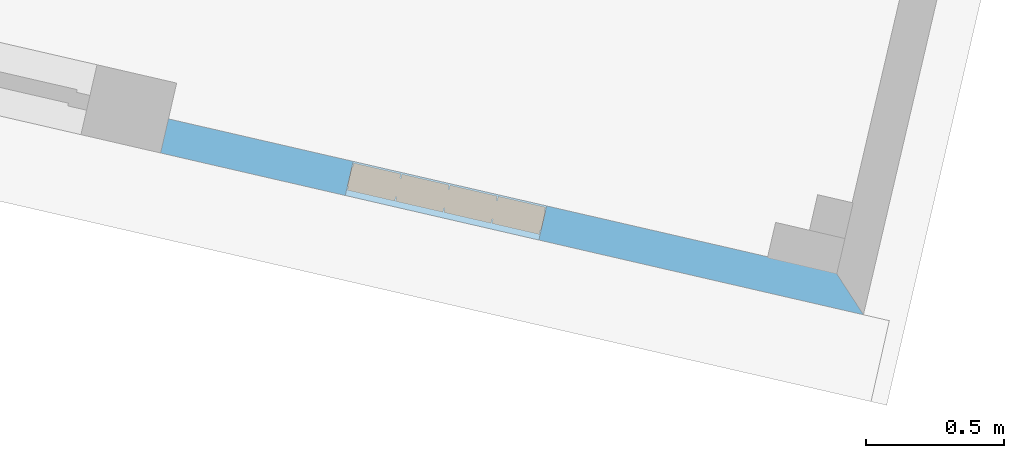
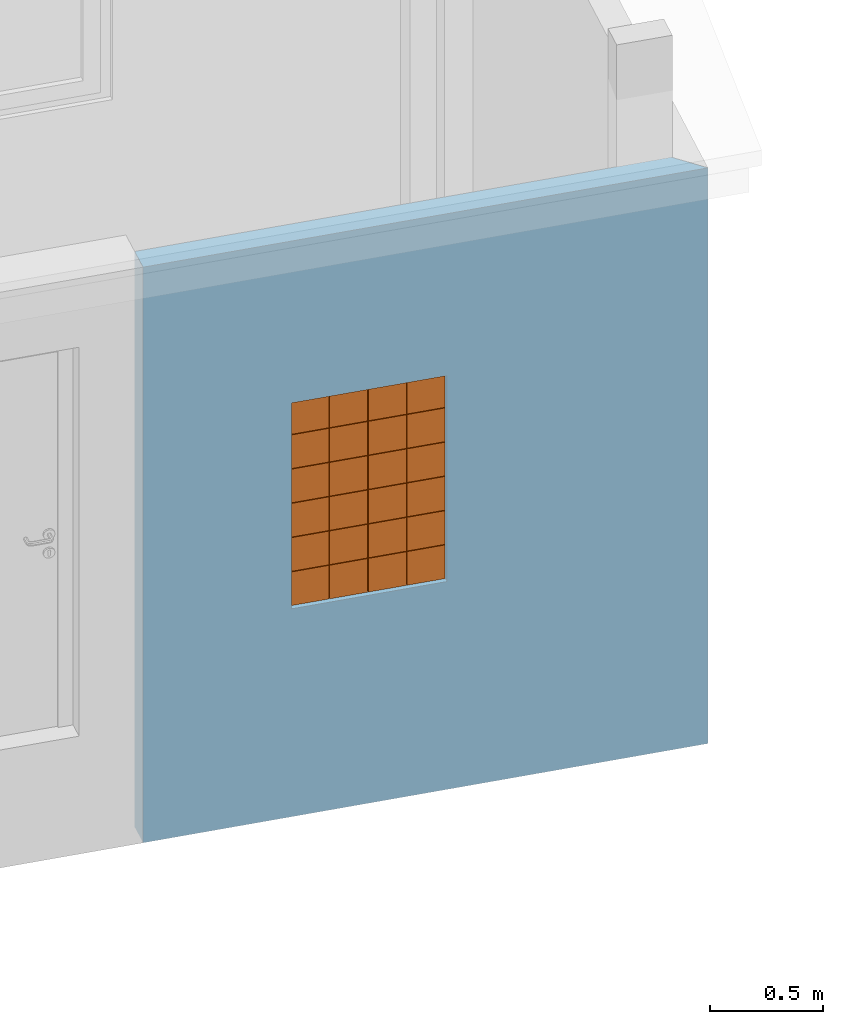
# One storey, part 112 of 196: 1 proxy, 1 opening, plus 1 element that does not belong to this part.
"""IFC2X3 building model written with IfcOpenShell, lengths in metres."""

from ifc_helpers import new_model, entity, si_unit, converted_unit, derived_unit, money_unit, direction, frame, origin_with_axes, origin_2d_with_axis, place, context, subcontext, project, spatial, polyline, rectangle, outline, extrude, faceted_brep, material, layer, layer_set, layer_usage, type_object, element, fill, save


model = new_model("IFC2X3")

# Units and contexts
model_context = context("Model", 3, precision=1e-05, world=origin_with_axes(), true_north=direction((0.0, 1.0)))
body_context = subcontext(model_context, "Body", "Model", "MODEL_VIEW")
ifc_project = project(units=[si_unit("LENGTHUNIT", "METRE"), si_unit("AREAUNIT", "SQUARE_METRE"), si_unit("VOLUMEUNIT", "CUBIC_METRE"), converted_unit("PLANEANGLEUNIT", "DEGREE", entity("IfcPlaneAngleMeasure", 0.0174532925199), si_unit("PLANEANGLEUNIT", "RADIAN"), dimensions=[0, 0, 0, 0, 0, 0, 0]), money_unit("EUR"), converted_unit("TIMEUNIT", "Year", entity("IfcTimeMeasure", 31556926.0), si_unit("TIMEUNIT", "SECOND"), dimensions=[0, 0, 1, 0, 0, 0, 0]), si_unit("MASSUNIT", "GRAM", prefix="KILO"), si_unit("THERMODYNAMICTEMPERATUREUNIT", "DEGREE_CELSIUS"), si_unit("LUMINOUSINTENSITYUNIT", "LUMEN"), si_unit("ENERGYUNIT", "JOULE", prefix="MEGA"), derived_unit("THERMALCONDUCTANCEUNIT", [(si_unit("POWERUNIT", "WATT"), 1), (si_unit("LENGTHUNIT", "METRE"), -1), (si_unit("THERMODYNAMICTEMPERATUREUNIT", "KELVIN"), -1)]), derived_unit("SPECIFICHEATCAPACITYUNIT", [(si_unit("ENERGYUNIT", "JOULE"), 1), (si_unit("MASSUNIT", "GRAM", prefix="KILO"), -1), (si_unit("THERMODYNAMICTEMPERATUREUNIT", "KELVIN"), -1)]), derived_unit("MASSDENSITYUNIT", [(si_unit("MASSUNIT", "GRAM", prefix="KILO"), 1), (si_unit("VOLUMEUNIT", "CUBIC_METRE"), -1)])], contexts=[model_context])

# Site, building, storey
site_placement = place(None, origin_with_axes())
site = spatial("IfcSite", under=ifc_project, at=site_placement, Name="Gelände", CompositionType="ELEMENT")
building_placement = place(site_placement, origin_with_axes())
building = spatial("IfcBuilding", under=site, at=building_placement, Name="Gebäude", CompositionType="ELEMENT")
storey_placement = place(building_placement, frame((0.0, 0.0, -3.0), z_axis=(0.0, 0.0, 1.0), x_axis=(1.0, 0.0, 0.0)))
storey = spatial("IfcBuildingStorey", under=building, at=storey_placement, Name="KELLERGESCHOSS", CompositionType="ELEMENT", Elevation=-3.0)

# Wall, opening, proxy
ifc_material = material(Name="05_ALLGEMEIN - TRAGENDE BAUTEILE")
ifc_layer = layer(ifc_material, 0.12696716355, ventilated="UNKNOWN")
ifc_layer_set = layer_set([ifc_layer], Name="05_ALLGEMEIN - TRAGENDE BAUTEILE 0.126967")
ifc_layer_usage = layer_usage(ifc_layer_set, "AXIS2", "NEGATIVE", 0.12696716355)
wall_type = type_object("IfcWallType", Name="05_ALLGEMEIN - TRAGENDE BAUTEILE 127", PredefinedType="ELEMENTEDWALL")
wall_placement = place(storey_placement, frame((-67.5879593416, 69.0336085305, 0.0), z_axis=(0.0, 0.0, 1.0), x_axis=(0.97451919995, -0.224304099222, 0.0)))
wall = element("IfcWallStandardCase", 1, at=wall_placement, inside=storey, type_object=wall_type, material=ifc_layer_usage, Name="Wand-028", ObjectType="ELEMENTEDWALL", context=body_context, shape_type="SweptSolid", body=[
    extrude(outline(polyline([(0.0, 0.0), (2.61512761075, 0.0), (2.48339586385, 0.12696716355), (0.0, 0.12696716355), (0.0, 0.0)])), origin_with_axes(), (0.0, 0.0, 1.0), 3.1099946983),
])
opening_placement = place(wall_placement, frame((1.04736940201, 0.0, 1.12314), z_axis=(0.0, 0.0, 1.0), x_axis=(1.0, 0.0, 0.0)))
opening = element("IfcOpeningElement", 2, at=opening_placement, cuts=wall, Name="Fenster-016", context=body_context, shape_type="SweptSolid", body=[
    extrude(rectangle(XDim=0.720305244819, YDim=1.113231, at=origin_2d_with_axis()), frame((0.0, 0.0199732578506, 0.5566155), z_axis=(0.0, 1.0, 0.0), x_axis=(-1.0, 0.0, 0.0)), (0.0, 0.0, 1.0), 0.233961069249),
    extrude(rectangle(XDim=0.720305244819, YDim=1.113231, at=origin_2d_with_axis()), frame((0.0, 0.0199732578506, 0.5566155), z_axis=(0.0, -1.0, 0.0), x_axis=(-1.0, 0.0, 0.0)), (0.0, 0.0, 1.0), 0.1469404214),
])
building_element_proxy_type = type_object("IfcBuildingElementProxyType", Name="Glasziegelfenster 25", PredefinedType="NOTDEFINED")
proxy_placement = place(opening_placement, frame((-0.36015262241, 0.0, 0.0), z_axis=(0.0, 0.0, 1.0), x_axis=(1.0, 0.0, 0.0)))
proxy = element("IfcBuildingElementProxy", 3, at=proxy_placement, inside=storey, type_object=building_element_proxy_type, Name="Fenster-016", context=body_context, shape_type="Brep", body=[
    faceted_brep([(0.720305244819, 0.105973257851, 0.0), (0.720305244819, 0.0359732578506, 0.0), (0.0, 0.0359732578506, 0.0), (0.0, 0.105973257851, 0.0), (0.720305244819, 0.105973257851, 1.113231), (0.720305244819, 0.0359732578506, 1.113231), (0.0, 0.0359732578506, 1.113231), (0.717305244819, 0.0359732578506, 0.003), (0.540978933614, 0.0359732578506, 0.003), (0.540978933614, 0.0359732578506, 0.1850385), (0.717305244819, 0.0359732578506, 0.1850385), (0.717305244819, 0.0359732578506, 0.1880385), (0.540978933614, 0.0359732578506, 0.1880385), (0.540978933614, 0.0359732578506, 0.370077), (0.717305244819, 0.0359732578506, 0.370077), (0.717305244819, 0.0359732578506, 0.373077), (0.540978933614, 0.0359732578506, 0.373077), (0.540978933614, 0.0359732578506, 0.5551155), (0.717305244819, 0.0359732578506, 0.5551155), (0.717305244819, 0.0359732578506, 0.5581155), (0.540978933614, 0.0359732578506, 0.5581155), (0.540978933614, 0.0359732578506, 0.740154), (0.717305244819, 0.0359732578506, 0.740154), (0.717305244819, 0.0359732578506, 0.743154), (0.540978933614, 0.0359732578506, 0.743154), (0.540978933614, 0.0359732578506, 0.9251925), (0.717305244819, 0.0359732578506, 0.9251925), (0.717305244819, 0.0359732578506, 0.9281925), (0.540978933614, 0.0359732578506, 0.9281925), (0.540978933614, 0.0359732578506, 1.110231), (0.717305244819, 0.0359732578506, 1.110231), (0.537978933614, 0.0359732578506, 0.003), (0.36165262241, 0.0359732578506, 0.003), (0.36165262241, 0.0359732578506, 0.1850385), (0.537978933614, 0.0359732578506, 0.1850385), (0.537978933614, 0.0359732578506, 0.1880385), (0.36165262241, 0.0359732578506, 0.1880385), (0.36165262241, 0.0359732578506, 0.370077), (0.537978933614, 0.0359732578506, 0.370077), (0.537978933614, 0.0359732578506, 0.373077), (0.36165262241, 0.0359732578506, 0.373077), (0.36165262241, 0.0359732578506, 0.5551155), (0.537978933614, 0.0359732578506, 0.5551155), (0.537978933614, 0.0359732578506, 0.5581155), (0.36165262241, 0.0359732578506, 0.5581155), (0.36165262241, 0.0359732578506, 0.740154), (0.537978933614, 0.0359732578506, 0.740154), (0.537978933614, 0.0359732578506, 0.743154), (0.36165262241, 0.0359732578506, 0.743154), (0.36165262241, 0.0359732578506, 0.9251925), (0.537978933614, 0.0359732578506, 0.9251925), (0.537978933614, 0.0359732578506, 0.9281925), (0.36165262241, 0.0359732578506, 0.9281925), (0.36165262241, 0.0359732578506, 1.110231), (0.537978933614, 0.0359732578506, 1.110231), (0.35865262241, 0.0359732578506, 0.003), (0.182326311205, 0.0359732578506, 0.003), (0.182326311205, 0.0359732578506, 0.1850385), (0.35865262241, 0.0359732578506, 0.1850385), (0.35865262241, 0.0359732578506, 0.1880385), (0.182326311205, 0.0359732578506, 0.1880385), (0.182326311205, 0.0359732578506, 0.370077), (0.35865262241, 0.0359732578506, 0.370077), (0.35865262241, 0.0359732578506, 0.373077), (0.182326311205, 0.0359732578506, 0.373077), (0.182326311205, 0.0359732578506, 0.5551155), (0.35865262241, 0.0359732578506, 0.5551155), (0.35865262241, 0.0359732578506, 0.5581155), (0.182326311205, 0.0359732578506, 0.5581155), (0.182326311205, 0.0359732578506, 0.740154), (0.35865262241, 0.0359732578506, 0.740154), (0.35865262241, 0.0359732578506, 0.743154), (0.182326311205, 0.0359732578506, 0.743154), (0.182326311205, 0.0359732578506, 0.9251925), (0.35865262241, 0.0359732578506, 0.9251925), (0.35865262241, 0.0359732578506, 0.9281925), (0.182326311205, 0.0359732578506, 0.9281925), (0.182326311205, 0.0359732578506, 1.110231), (0.35865262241, 0.0359732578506, 1.110231), (0.179326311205, 0.0359732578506, 0.003), (0.00300000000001, 0.0359732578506, 0.003), (0.00300000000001, 0.0359732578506, 0.1850385), (0.179326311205, 0.0359732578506, 0.1850385), (0.179326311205, 0.0359732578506, 0.1880385), (0.00300000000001, 0.0359732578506, 0.1880385), (0.00300000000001, 0.0359732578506, 0.370077), (0.179326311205, 0.0359732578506, 0.370077), (0.179326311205, 0.0359732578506, 0.373077), (0.00300000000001, 0.0359732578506, 0.373077), (0.00300000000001, 0.0359732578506, 0.5551155), (0.179326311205, 0.0359732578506, 0.5551155), (0.179326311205, 0.0359732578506, 0.5581155), (0.00300000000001, 0.0359732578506, 0.5581155), (0.00300000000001, 0.0359732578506, 0.740154), (0.179326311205, 0.0359732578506, 0.740154), (0.179326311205, 0.0359732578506, 0.743154), (0.00300000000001, 0.0359732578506, 0.743154), (0.00300000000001, 0.0359732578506, 0.9251925), (0.179326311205, 0.0359732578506, 0.9251925), (0.179326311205, 0.0359732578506, 0.9281925), (0.00300000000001, 0.0359732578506, 0.9281925), (0.00300000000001, 0.0359732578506, 1.110231), (0.179326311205, 0.0359732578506, 1.110231), (0.0, 0.105973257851, 1.113231), (0.717305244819, 0.105973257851, 0.003), (0.717305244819, 0.105973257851, 0.1850385), (0.540978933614, 0.105973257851, 0.1850385), (0.540978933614, 0.105973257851, 0.003), (0.717305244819, 0.105973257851, 0.1880385), (0.717305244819, 0.105973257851, 0.370077), (0.540978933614, 0.105973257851, 0.370077), (0.540978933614, 0.105973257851, 0.1880385), (0.717305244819, 0.105973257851, 0.373077), (0.717305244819, 0.105973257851, 0.5551155), (0.540978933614, 0.105973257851, 0.5551155), (0.540978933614, 0.105973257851, 0.373077), (0.717305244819, 0.105973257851, 0.5581155), (0.717305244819, 0.105973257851, 0.740154), (0.540978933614, 0.105973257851, 0.740154), (0.540978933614, 0.105973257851, 0.5581155), (0.717305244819, 0.105973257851, 0.743154), (0.717305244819, 0.105973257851, 0.9251925), (0.540978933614, 0.105973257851, 0.9251925), (0.540978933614, 0.105973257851, 0.743154), (0.717305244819, 0.105973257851, 0.9281925), (0.717305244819, 0.105973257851, 1.110231), (0.540978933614, 0.105973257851, 1.110231), (0.540978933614, 0.105973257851, 0.9281925), (0.537978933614, 0.105973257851, 0.003), (0.537978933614, 0.105973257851, 0.1850385), (0.36165262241, 0.105973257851, 0.1850385), (0.36165262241, 0.105973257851, 0.003), (0.537978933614, 0.105973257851, 0.1880385), (0.537978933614, 0.105973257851, 0.370077), (0.36165262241, 0.105973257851, 0.370077), (0.36165262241, 0.105973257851, 0.1880385), (0.537978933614, 0.105973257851, 0.373077), (0.537978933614, 0.105973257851, 0.5551155), (0.36165262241, 0.105973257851, 0.5551155), (0.36165262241, 0.105973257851, 0.373077), (0.537978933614, 0.105973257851, 0.5581155), (0.537978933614, 0.105973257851, 0.740154), (0.36165262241, 0.105973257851, 0.740154), (0.36165262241, 0.105973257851, 0.5581155), (0.537978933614, 0.105973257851, 0.743154), (0.537978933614, 0.105973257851, 0.9251925), (0.36165262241, 0.105973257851, 0.9251925), (0.36165262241, 0.105973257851, 0.743154), (0.537978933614, 0.105973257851, 0.9281925), (0.537978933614, 0.105973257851, 1.110231), (0.36165262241, 0.105973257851, 1.110231), (0.36165262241, 0.105973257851, 0.9281925), (0.35865262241, 0.105973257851, 0.003), (0.35865262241, 0.105973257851, 0.1850385), (0.182326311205, 0.105973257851, 0.1850385), (0.182326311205, 0.105973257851, 0.003), (0.35865262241, 0.105973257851, 0.1880385), (0.35865262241, 0.105973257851, 0.370077), (0.182326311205, 0.105973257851, 0.370077), (0.182326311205, 0.105973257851, 0.1880385), (0.35865262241, 0.105973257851, 0.373077), (0.35865262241, 0.105973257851, 0.5551155), (0.182326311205, 0.105973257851, 0.5551155), (0.182326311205, 0.105973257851, 0.373077), (0.35865262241, 0.105973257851, 0.5581155), (0.35865262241, 0.105973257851, 0.740154), (0.182326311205, 0.105973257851, 0.740154), (0.182326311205, 0.105973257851, 0.5581155), (0.35865262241, 0.105973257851, 0.743154), (0.35865262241, 0.105973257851, 0.9251925), (0.182326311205, 0.105973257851, 0.9251925), (0.182326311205, 0.105973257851, 0.743154), (0.35865262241, 0.105973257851, 0.9281925), (0.35865262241, 0.105973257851, 1.110231), (0.182326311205, 0.105973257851, 1.110231), (0.182326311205, 0.105973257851, 0.9281925), (0.179326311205, 0.105973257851, 0.003), (0.179326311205, 0.105973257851, 0.1850385), (0.003, 0.105973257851, 0.1850385), (0.003, 0.105973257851, 0.003), (0.179326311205, 0.105973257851, 0.1880385), (0.179326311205, 0.105973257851, 0.370077), (0.003, 0.105973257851, 0.370077), (0.003, 0.105973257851, 0.1880385), (0.179326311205, 0.105973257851, 0.373077), (0.179326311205, 0.105973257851, 0.5551155), (0.003, 0.105973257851, 0.5551155), (0.003, 0.105973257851, 0.373077), (0.179326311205, 0.105973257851, 0.5581155), (0.179326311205, 0.105973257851, 0.740154), (0.003, 0.105973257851, 0.740154), (0.003, 0.105973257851, 0.5581155), (0.179326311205, 0.105973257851, 0.743154), (0.179326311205, 0.105973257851, 0.9251925), (0.003, 0.105973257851, 0.9251925), (0.003, 0.105973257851, 0.743154), (0.179326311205, 0.105973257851, 0.9281925), (0.179326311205, 0.105973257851, 1.110231), (0.003, 0.105973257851, 1.110231), (0.003, 0.105973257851, 0.9281925)], [[[0, 1, 2, 3]], [[4, 5, 1, 0]], [[1, 5, 6, 2], [7, 8, 9, 10], [11, 12, 13, 14], [15, 16, 17, 18], [19, 20, 21, 22], [23, 24, 25, 26], [27, 28, 29, 30], [31, 32, 33, 34], [35, 36, 37, 38], [39, 40, 41, 42], [43, 44, 45, 46], [47, 48, 49, 50], [51, 52, 53, 54], [55, 56, 57, 58], [59, 60, 61, 62], [63, 64, 65, 66], [67, 68, 69, 70], [71, 72, 73, 74], [75, 76, 77, 78], [79, 80, 81, 82], [83, 84, 85, 86], [87, 88, 89, 90], [91, 92, 93, 94], [95, 96, 97, 98], [99, 100, 101, 102]], [[3, 2, 6, 103]], [[0, 3, 103, 4], [104, 105, 106, 107], [108, 109, 110, 111], [112, 113, 114, 115], [116, 117, 118, 119], [120, 121, 122, 123], [124, 125, 126, 127], [128, 129, 130, 131], [132, 133, 134, 135], [136, 137, 138, 139], [140, 141, 142, 143], [144, 145, 146, 147], [148, 149, 150, 151], [152, 153, 154, 155], [156, 157, 158, 159], [160, 161, 162, 163], [164, 165, 166, 167], [168, 169, 170, 171], [172, 173, 174, 175], [176, 177, 178, 179], [180, 181, 182, 183], [184, 185, 186, 187], [188, 189, 190, 191], [192, 193, 194, 195], [196, 197, 198, 199]], [[103, 6, 5, 4]], [[107, 8, 7, 104]], [[106, 9, 8, 107]], [[105, 10, 9, 106]], [[104, 7, 10, 105]], [[111, 12, 11, 108]], [[110, 13, 12, 111]], [[109, 14, 13, 110]], [[108, 11, 14, 109]], [[115, 16, 15, 112]], [[114, 17, 16, 115]], [[113, 18, 17, 114]], [[112, 15, 18, 113]], [[119, 20, 19, 116]], [[118, 21, 20, 119]], [[117, 22, 21, 118]], [[116, 19, 22, 117]], [[123, 24, 23, 120]], [[122, 25, 24, 123]], [[121, 26, 25, 122]], [[120, 23, 26, 121]], [[127, 28, 27, 124]], [[126, 29, 28, 127]], [[125, 30, 29, 126]], [[124, 27, 30, 125]], [[131, 32, 31, 128]], [[130, 33, 32, 131]], [[129, 34, 33, 130]], [[128, 31, 34, 129]], [[135, 36, 35, 132]], [[134, 37, 36, 135]], [[133, 38, 37, 134]], [[132, 35, 38, 133]], [[139, 40, 39, 136]], [[138, 41, 40, 139]], [[137, 42, 41, 138]], [[136, 39, 42, 137]], [[143, 44, 43, 140]], [[142, 45, 44, 143]], [[141, 46, 45, 142]], [[140, 43, 46, 141]], [[147, 48, 47, 144]], [[146, 49, 48, 147]], [[145, 50, 49, 146]], [[144, 47, 50, 145]], [[151, 52, 51, 148]], [[150, 53, 52, 151]], [[149, 54, 53, 150]], [[148, 51, 54, 149]], [[155, 56, 55, 152]], [[154, 57, 56, 155]], [[153, 58, 57, 154]], [[152, 55, 58, 153]], [[159, 60, 59, 156]], [[158, 61, 60, 159]], [[157, 62, 61, 158]], [[156, 59, 62, 157]], [[163, 64, 63, 160]], [[162, 65, 64, 163]], [[161, 66, 65, 162]], [[160, 63, 66, 161]], [[167, 68, 67, 164]], [[166, 69, 68, 167]], [[165, 70, 69, 166]], [[164, 67, 70, 165]], [[171, 72, 71, 168]], [[170, 73, 72, 171]], [[169, 74, 73, 170]], [[168, 71, 74, 169]], [[175, 76, 75, 172]], [[174, 77, 76, 175]], [[173, 78, 77, 174]], [[172, 75, 78, 173]], [[179, 80, 79, 176]], [[178, 81, 80, 179]], [[177, 82, 81, 178]], [[176, 79, 82, 177]], [[183, 84, 83, 180]], [[182, 85, 84, 183]], [[181, 86, 85, 182]], [[180, 83, 86, 181]], [[187, 88, 87, 184]], [[186, 89, 88, 187]], [[185, 90, 89, 186]], [[184, 87, 90, 185]], [[191, 92, 91, 188]], [[190, 93, 92, 191]], [[189, 94, 93, 190]], [[188, 91, 94, 189]], [[195, 96, 95, 192]], [[194, 97, 96, 195]], [[193, 98, 97, 194]], [[192, 95, 98, 193]], [[199, 100, 99, 196]], [[198, 101, 100, 199]], [[197, 102, 101, 198]], [[196, 99, 102, 197]]]),
    faceted_brep([(0.717305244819, 0.121973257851, 0.003), (0.717305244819, 0.0199732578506, 0.003), (0.540978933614, 0.0199732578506, 0.003), (0.540978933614, 0.121973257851, 0.003), (0.717305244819, 0.121973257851, 0.1850385), (0.717305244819, 0.0199732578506, 0.1850385), (0.540978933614, 0.0199732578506, 0.1850385), (0.540978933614, 0.121973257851, 0.1850385)], [[[0, 1, 2, 3]], [[4, 5, 1, 0]], [[1, 5, 6, 2]], [[3, 2, 6, 7]], [[0, 3, 7, 4]], [[7, 6, 5, 4]]]),
    faceted_brep([(0.717305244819, 0.121973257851, 0.1880385), (0.717305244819, 0.0199732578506, 0.1880385), (0.540978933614, 0.0199732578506, 0.1880385), (0.540978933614, 0.121973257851, 0.1880385), (0.717305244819, 0.121973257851, 0.370077), (0.717305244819, 0.0199732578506, 0.370077), (0.540978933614, 0.0199732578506, 0.370077), (0.540978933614, 0.121973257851, 0.370077)], [[[0, 1, 2, 3]], [[4, 5, 1, 0]], [[1, 5, 6, 2]], [[3, 2, 6, 7]], [[0, 3, 7, 4]], [[7, 6, 5, 4]]]),
    faceted_brep([(0.717305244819, 0.121973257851, 0.373077), (0.717305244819, 0.0199732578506, 0.373077), (0.540978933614, 0.0199732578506, 0.373077), (0.540978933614, 0.121973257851, 0.373077), (0.717305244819, 0.121973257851, 0.5551155), (0.717305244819, 0.0199732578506, 0.5551155), (0.540978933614, 0.0199732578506, 0.5551155), (0.540978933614, 0.121973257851, 0.5551155)], [[[0, 1, 2, 3]], [[4, 5, 1, 0]], [[1, 5, 6, 2]], [[3, 2, 6, 7]], [[0, 3, 7, 4]], [[7, 6, 5, 4]]]),
    faceted_brep([(0.717305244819, 0.121973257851, 0.5581155), (0.717305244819, 0.0199732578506, 0.5581155), (0.540978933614, 0.0199732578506, 0.5581155), (0.540978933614, 0.121973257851, 0.5581155), (0.717305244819, 0.121973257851, 0.740154), (0.717305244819, 0.0199732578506, 0.740154), (0.540978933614, 0.0199732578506, 0.740154), (0.540978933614, 0.121973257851, 0.740154)], [[[0, 1, 2, 3]], [[4, 5, 1, 0]], [[1, 5, 6, 2]], [[3, 2, 6, 7]], [[0, 3, 7, 4]], [[7, 6, 5, 4]]]),
    faceted_brep([(0.717305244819, 0.121973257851, 0.743154), (0.717305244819, 0.0199732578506, 0.743154), (0.540978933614, 0.0199732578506, 0.743154), (0.540978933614, 0.121973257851, 0.743154), (0.717305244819, 0.121973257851, 0.9251925), (0.717305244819, 0.0199732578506, 0.9251925), (0.540978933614, 0.0199732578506, 0.9251925), (0.540978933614, 0.121973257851, 0.9251925)], [[[0, 1, 2, 3]], [[4, 5, 1, 0]], [[1, 5, 6, 2]], [[3, 2, 6, 7]], [[0, 3, 7, 4]], [[7, 6, 5, 4]]]),
    faceted_brep([(0.717305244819, 0.121973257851, 0.9281925), (0.717305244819, 0.0199732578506, 0.9281925), (0.540978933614, 0.0199732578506, 0.9281925), (0.540978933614, 0.121973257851, 0.9281925), (0.717305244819, 0.121973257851, 1.110231), (0.717305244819, 0.0199732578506, 1.110231), (0.540978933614, 0.0199732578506, 1.110231), (0.540978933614, 0.121973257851, 1.110231)], [[[0, 1, 2, 3]], [[4, 5, 1, 0]], [[1, 5, 6, 2]], [[3, 2, 6, 7]], [[0, 3, 7, 4]], [[7, 6, 5, 4]]]),
    faceted_brep([(0.537978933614, 0.121973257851, 0.003), (0.537978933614, 0.0199732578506, 0.003), (0.36165262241, 0.0199732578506, 0.003), (0.36165262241, 0.121973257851, 0.003), (0.537978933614, 0.121973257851, 0.1850385), (0.537978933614, 0.0199732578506, 0.1850385), (0.36165262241, 0.0199732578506, 0.1850385), (0.36165262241, 0.121973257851, 0.1850385)], [[[0, 1, 2, 3]], [[4, 5, 1, 0]], [[1, 5, 6, 2]], [[3, 2, 6, 7]], [[0, 3, 7, 4]], [[7, 6, 5, 4]]]),
    faceted_brep([(0.537978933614, 0.121973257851, 0.1880385), (0.537978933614, 0.0199732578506, 0.1880385), (0.36165262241, 0.0199732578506, 0.1880385), (0.36165262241, 0.121973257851, 0.1880385), (0.537978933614, 0.121973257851, 0.370077), (0.537978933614, 0.0199732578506, 0.370077), (0.36165262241, 0.0199732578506, 0.370077), (0.36165262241, 0.121973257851, 0.370077)], [[[0, 1, 2, 3]], [[4, 5, 1, 0]], [[1, 5, 6, 2]], [[3, 2, 6, 7]], [[0, 3, 7, 4]], [[7, 6, 5, 4]]]),
    faceted_brep([(0.537978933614, 0.121973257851, 0.373077), (0.537978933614, 0.0199732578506, 0.373077), (0.36165262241, 0.0199732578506, 0.373077), (0.36165262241, 0.121973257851, 0.373077), (0.537978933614, 0.121973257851, 0.5551155), (0.537978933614, 0.0199732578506, 0.5551155), (0.36165262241, 0.0199732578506, 0.5551155), (0.36165262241, 0.121973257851, 0.5551155)], [[[0, 1, 2, 3]], [[4, 5, 1, 0]], [[1, 5, 6, 2]], [[3, 2, 6, 7]], [[0, 3, 7, 4]], [[7, 6, 5, 4]]]),
    faceted_brep([(0.537978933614, 0.121973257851, 0.5581155), (0.537978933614, 0.0199732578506, 0.5581155), (0.36165262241, 0.0199732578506, 0.5581155), (0.36165262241, 0.121973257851, 0.5581155), (0.537978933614, 0.121973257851, 0.740154), (0.537978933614, 0.0199732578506, 0.740154), (0.36165262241, 0.0199732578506, 0.740154), (0.36165262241, 0.121973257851, 0.740154)], [[[0, 1, 2, 3]], [[4, 5, 1, 0]], [[1, 5, 6, 2]], [[3, 2, 6, 7]], [[0, 3, 7, 4]], [[7, 6, 5, 4]]]),
    faceted_brep([(0.537978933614, 0.121973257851, 0.743154), (0.537978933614, 0.0199732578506, 0.743154), (0.36165262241, 0.0199732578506, 0.743154), (0.36165262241, 0.121973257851, 0.743154), (0.537978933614, 0.121973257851, 0.9251925), (0.537978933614, 0.0199732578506, 0.9251925), (0.36165262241, 0.0199732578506, 0.9251925), (0.36165262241, 0.121973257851, 0.9251925)], [[[0, 1, 2, 3]], [[4, 5, 1, 0]], [[1, 5, 6, 2]], [[3, 2, 6, 7]], [[0, 3, 7, 4]], [[7, 6, 5, 4]]]),
    faceted_brep([(0.537978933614, 0.121973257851, 0.9281925), (0.537978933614, 0.0199732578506, 0.9281925), (0.36165262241, 0.0199732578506, 0.9281925), (0.36165262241, 0.121973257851, 0.9281925), (0.537978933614, 0.121973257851, 1.110231), (0.537978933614, 0.0199732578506, 1.110231), (0.36165262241, 0.0199732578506, 1.110231), (0.36165262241, 0.121973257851, 1.110231)], [[[0, 1, 2, 3]], [[4, 5, 1, 0]], [[1, 5, 6, 2]], [[3, 2, 6, 7]], [[0, 3, 7, 4]], [[7, 6, 5, 4]]]),
    faceted_brep([(0.35865262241, 0.121973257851, 0.003), (0.35865262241, 0.0199732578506, 0.003), (0.182326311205, 0.0199732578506, 0.003), (0.182326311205, 0.121973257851, 0.003), (0.35865262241, 0.121973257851, 0.1850385), (0.35865262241, 0.0199732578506, 0.1850385), (0.182326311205, 0.0199732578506, 0.1850385), (0.182326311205, 0.121973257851, 0.1850385)], [[[0, 1, 2, 3]], [[4, 5, 1, 0]], [[1, 5, 6, 2]], [[3, 2, 6, 7]], [[0, 3, 7, 4]], [[7, 6, 5, 4]]]),
    faceted_brep([(0.35865262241, 0.121973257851, 0.1880385), (0.35865262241, 0.0199732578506, 0.1880385), (0.182326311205, 0.0199732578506, 0.1880385), (0.182326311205, 0.121973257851, 0.1880385), (0.35865262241, 0.121973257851, 0.370077), (0.35865262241, 0.0199732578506, 0.370077), (0.182326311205, 0.0199732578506, 0.370077), (0.182326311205, 0.121973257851, 0.370077)], [[[0, 1, 2, 3]], [[4, 5, 1, 0]], [[1, 5, 6, 2]], [[3, 2, 6, 7]], [[0, 3, 7, 4]], [[7, 6, 5, 4]]]),
    faceted_brep([(0.35865262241, 0.121973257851, 0.373077), (0.35865262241, 0.0199732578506, 0.373077), (0.182326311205, 0.0199732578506, 0.373077), (0.182326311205, 0.121973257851, 0.373077), (0.35865262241, 0.121973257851, 0.5551155), (0.35865262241, 0.0199732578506, 0.5551155), (0.182326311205, 0.0199732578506, 0.5551155), (0.182326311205, 0.121973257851, 0.5551155)], [[[0, 1, 2, 3]], [[4, 5, 1, 0]], [[1, 5, 6, 2]], [[3, 2, 6, 7]], [[0, 3, 7, 4]], [[7, 6, 5, 4]]]),
    faceted_brep([(0.35865262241, 0.121973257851, 0.5581155), (0.35865262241, 0.0199732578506, 0.5581155), (0.182326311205, 0.0199732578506, 0.5581155), (0.182326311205, 0.121973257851, 0.5581155), (0.35865262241, 0.121973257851, 0.740154), (0.35865262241, 0.0199732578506, 0.740154), (0.182326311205, 0.0199732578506, 0.740154), (0.182326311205, 0.121973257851, 0.740154)], [[[0, 1, 2, 3]], [[4, 5, 1, 0]], [[1, 5, 6, 2]], [[3, 2, 6, 7]], [[0, 3, 7, 4]], [[7, 6, 5, 4]]]),
    faceted_brep([(0.35865262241, 0.121973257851, 0.743154), (0.35865262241, 0.0199732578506, 0.743154), (0.182326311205, 0.0199732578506, 0.743154), (0.182326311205, 0.121973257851, 0.743154), (0.35865262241, 0.121973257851, 0.9251925), (0.35865262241, 0.0199732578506, 0.9251925), (0.182326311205, 0.0199732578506, 0.9251925), (0.182326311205, 0.121973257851, 0.9251925)], [[[0, 1, 2, 3]], [[4, 5, 1, 0]], [[1, 5, 6, 2]], [[3, 2, 6, 7]], [[0, 3, 7, 4]], [[7, 6, 5, 4]]]),
    faceted_brep([(0.35865262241, 0.121973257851, 0.9281925), (0.35865262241, 0.0199732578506, 0.9281925), (0.182326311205, 0.0199732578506, 0.9281925), (0.182326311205, 0.121973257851, 0.9281925), (0.35865262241, 0.121973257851, 1.110231), (0.35865262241, 0.0199732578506, 1.110231), (0.182326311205, 0.0199732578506, 1.110231), (0.182326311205, 0.121973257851, 1.110231)], [[[0, 1, 2, 3]], [[4, 5, 1, 0]], [[1, 5, 6, 2]], [[3, 2, 6, 7]], [[0, 3, 7, 4]], [[7, 6, 5, 4]]]),
    faceted_brep([(0.179326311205, 0.121973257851, 0.003), (0.179326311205, 0.0199732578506, 0.003), (0.00300000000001, 0.0199732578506, 0.003), (0.003, 0.121973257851, 0.003), (0.179326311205, 0.121973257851, 0.1850385), (0.179326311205, 0.0199732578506, 0.1850385), (0.00300000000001, 0.0199732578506, 0.1850385), (0.003, 0.121973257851, 0.1850385)], [[[0, 1, 2, 3]], [[4, 5, 1, 0]], [[1, 5, 6, 2]], [[3, 2, 6, 7]], [[0, 3, 7, 4]], [[7, 6, 5, 4]]]),
    faceted_brep([(0.179326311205, 0.121973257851, 0.1880385), (0.179326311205, 0.0199732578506, 0.1880385), (0.00300000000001, 0.0199732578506, 0.1880385), (0.003, 0.121973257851, 0.1880385), (0.179326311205, 0.121973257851, 0.370077), (0.179326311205, 0.0199732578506, 0.370077), (0.00300000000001, 0.0199732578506, 0.370077), (0.003, 0.121973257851, 0.370077)], [[[0, 1, 2, 3]], [[4, 5, 1, 0]], [[1, 5, 6, 2]], [[3, 2, 6, 7]], [[0, 3, 7, 4]], [[7, 6, 5, 4]]]),
    faceted_brep([(0.179326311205, 0.121973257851, 0.373077), (0.179326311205, 0.0199732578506, 0.373077), (0.00300000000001, 0.0199732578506, 0.373077), (0.003, 0.121973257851, 0.373077), (0.179326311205, 0.121973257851, 0.5551155), (0.179326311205, 0.0199732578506, 0.5551155), (0.00300000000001, 0.0199732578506, 0.5551155), (0.003, 0.121973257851, 0.5551155)], [[[0, 1, 2, 3]], [[4, 5, 1, 0]], [[1, 5, 6, 2]], [[3, 2, 6, 7]], [[0, 3, 7, 4]], [[7, 6, 5, 4]]]),
    faceted_brep([(0.179326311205, 0.121973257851, 0.5581155), (0.179326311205, 0.0199732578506, 0.5581155), (0.00300000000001, 0.0199732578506, 0.5581155), (0.003, 0.121973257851, 0.5581155), (0.179326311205, 0.121973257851, 0.740154), (0.179326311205, 0.0199732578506, 0.740154), (0.00300000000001, 0.0199732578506, 0.740154), (0.003, 0.121973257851, 0.740154)], [[[0, 1, 2, 3]], [[4, 5, 1, 0]], [[1, 5, 6, 2]], [[3, 2, 6, 7]], [[0, 3, 7, 4]], [[7, 6, 5, 4]]]),
    faceted_brep([(0.179326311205, 0.121973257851, 0.743154), (0.179326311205, 0.0199732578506, 0.743154), (0.00300000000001, 0.0199732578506, 0.743154), (0.003, 0.121973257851, 0.743154), (0.179326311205, 0.121973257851, 0.9251925), (0.179326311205, 0.0199732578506, 0.9251925), (0.00300000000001, 0.0199732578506, 0.9251925), (0.003, 0.121973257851, 0.9251925)], [[[0, 1, 2, 3]], [[4, 5, 1, 0]], [[1, 5, 6, 2]], [[3, 2, 6, 7]], [[0, 3, 7, 4]], [[7, 6, 5, 4]]]),
    faceted_brep([(0.179326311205, 0.121973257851, 0.9281925), (0.179326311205, 0.0199732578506, 0.9281925), (0.00300000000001, 0.0199732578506, 0.9281925), (0.003, 0.121973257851, 0.9281925), (0.179326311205, 0.121973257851, 1.110231), (0.179326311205, 0.0199732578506, 1.110231), (0.00300000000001, 0.0199732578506, 1.110231), (0.003, 0.121973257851, 1.110231)], [[[0, 1, 2, 3]], [[4, 5, 1, 0]], [[1, 5, 6, 2]], [[3, 2, 6, 7]], [[0, 3, 7, 4]], [[7, 6, 5, 4]]]),
])
fill(opening, proxy)

save(model, "model.ifc")
